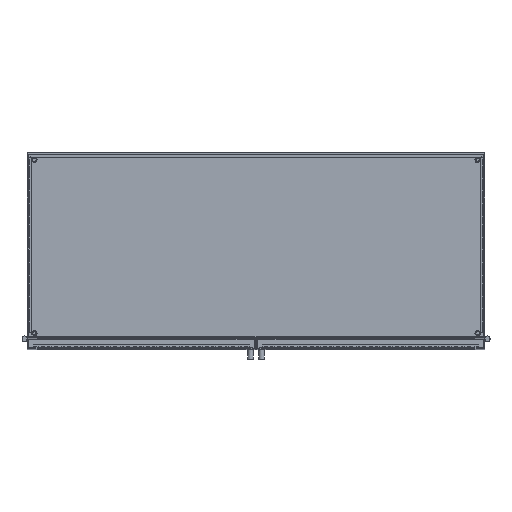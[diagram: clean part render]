
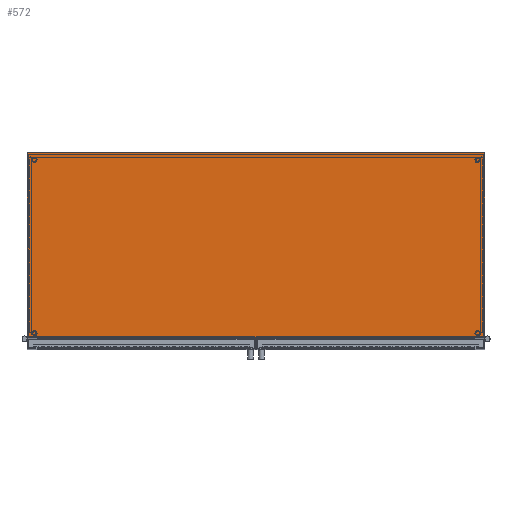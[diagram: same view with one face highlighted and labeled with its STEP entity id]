
A CAD part, top view. The second image highlights one B-rep face of the part: STEP entity #572.
In plain terms, the highlighted planar face has unit normal (0, 0, 1).
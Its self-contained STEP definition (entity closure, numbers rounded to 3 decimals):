
#572=ADVANCED_FACE('',(#1296),#10139,.T.);
#1296=FACE_OUTER_BOUND('',#2042,.T.);
#2042=EDGE_LOOP('',(#3957,#3958,#3959,#3960));
#3957=ORIENTED_EDGE('',*,*,#6488,.T.);
#3958=ORIENTED_EDGE('',*,*,#6489,.T.);
#3959=ORIENTED_EDGE('',*,*,#6490,.T.);
#3960=ORIENTED_EDGE('',*,*,#6491,.T.);
#6488=EDGE_CURVE('',#9493,#9494,#7596,.T.);
#6489=EDGE_CURVE('',#9494,#9495,#7597,.T.);
#6490=EDGE_CURVE('',#9495,#9496,#7598,.T.);
#6491=EDGE_CURVE('',#9496,#9493,#7599,.T.);
#7596=B_SPLINE_CURVE_WITH_KNOTS('',1,(#17279,#17280,#17281,#17282),
 .UNSPECIFIED.,.F.,.F.,(2,1,1,2),(101.,116.,786.,801.),.UNSPECIFIED.);
#7597=B_SPLINE_CURVE_WITH_KNOTS('',1,(#17283,#17284,#17285,#17286),
 .UNSPECIFIED.,.F.,.F.,(2,1,1,2),(75.,90.,343.,358.),.UNSPECIFIED.);
#7598=B_SPLINE_CURVE_WITH_KNOTS('',1,(#17287,#17288,#17289,#17290),
 .UNSPECIFIED.,.F.,.F.,(2,1,1,2),(101.,116.,786.,801.),.UNSPECIFIED.);
#7599=B_SPLINE_CURVE_WITH_KNOTS('',1,(#17291,#17292,#17293,#17294),
 .UNSPECIFIED.,.F.,.F.,(2,1,1,2),(75.,90.,343.,358.),.UNSPECIFIED.);
#9493=VERTEX_POINT('',#17109);
#9494=VERTEX_POINT('',#17110);
#9495=VERTEX_POINT('',#17111);
#9496=VERTEX_POINT('',#17112);
#10139=PLANE('',#10883);
#10883=AXIS2_PLACEMENT_3D('',#16970,#11283,$);
#11283=DIRECTION('',(0.,0.,1.));
#16970=CARTESIAN_POINT('',(-420.12,-11.42,1550.));
#17109=CARTESIAN_POINT('',(-350.,17.,1550.));
#17110=CARTESIAN_POINT('',(350.,17.,1550.));
#17111=CARTESIAN_POINT('',(350.,300.,1550.));
#17112=CARTESIAN_POINT('',(-350.,300.,1550.));
#17279=CARTESIAN_POINT('',(-350.,17.,1550.));
#17280=CARTESIAN_POINT('',(-335.,17.,1550.));
#17281=CARTESIAN_POINT('',(335.,17.,1550.));
#17282=CARTESIAN_POINT('',(350.,17.,1550.));
#17283=CARTESIAN_POINT('',(350.,17.,1550.));
#17284=CARTESIAN_POINT('',(350.,32.,1550.));
#17285=CARTESIAN_POINT('',(350.,285.,1550.));
#17286=CARTESIAN_POINT('',(350.,300.,1550.));
#17287=CARTESIAN_POINT('',(350.,300.,1550.));
#17288=CARTESIAN_POINT('',(335.,300.,1550.));
#17289=CARTESIAN_POINT('',(-335.,300.,1550.));
#17290=CARTESIAN_POINT('',(-350.,300.,1550.));
#17291=CARTESIAN_POINT('',(-350.,300.,1550.));
#17292=CARTESIAN_POINT('',(-350.,285.,1550.));
#17293=CARTESIAN_POINT('',(-350.,32.,1550.));
#17294=CARTESIAN_POINT('',(-350.,17.,1550.));
